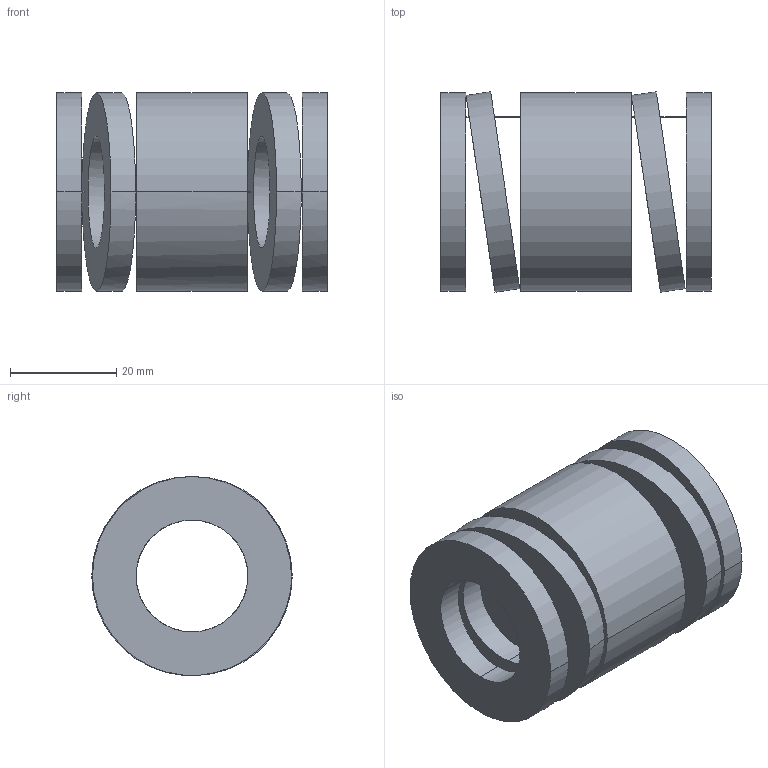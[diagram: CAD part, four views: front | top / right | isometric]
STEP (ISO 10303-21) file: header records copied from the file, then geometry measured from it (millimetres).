
FILE_DESCRIPTION(('CATIA V5 STEP Exchange'),'2;1');
FILE_NAME('C:\Users\Utente\Desktop\IO LAVORO\3D X SITO CF\X SITO\3D files 392B\392-B40-051.stp','2021-08-13T11:21:03+00:00',('none'),('none'),'CATIA Version 5 Release 20 GA (IN-10)','CATIA V5 STEP AP203','none');
FILE_SCHEMA(('CONFIG_CONTROL_DESIGN'));
Length unit declared in the file: millimetre
Products named in the file (1): 392-B40-051
Bounding box: 51 x 37.78 x 37.5 mm (x, y, z)
Volume: 29855.1 mm3; surface area: 14836.8 mm2
Topology: 1 solids, 1 shells, 38 faces, 92 edges, 64 vertices
Faces by surface type: cylinder 28, plane 10
Entity records: 1638 total; most frequent: CARTESIAN_POINT 761, ORIENTED_EDGE 184, DIRECTION 123, EDGE_CURVE 92, VERTEX_POINT 64, AXIS2_PLACEMENT_3D 58, EDGE_LOOP 56, B_SPLINE_CURVE_WITH_KNOTS 45
